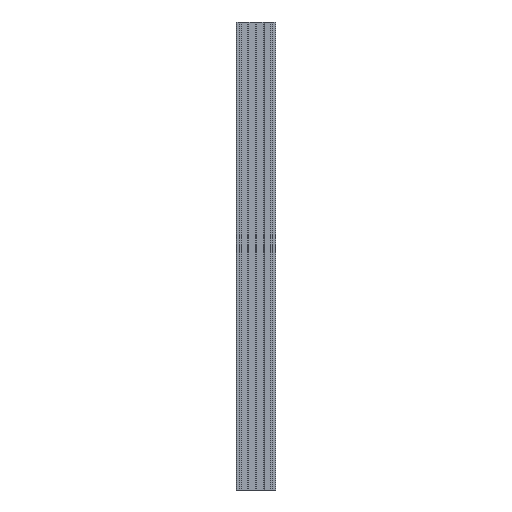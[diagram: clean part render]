
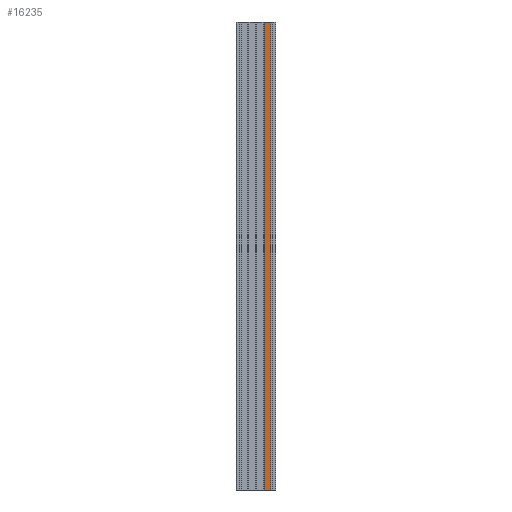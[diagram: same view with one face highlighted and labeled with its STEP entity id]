
A CAD part, front view. The second image highlights one B-rep face of the part: STEP entity #16235.
In plain terms, the highlighted planar face has unit normal (0, -1, 0).
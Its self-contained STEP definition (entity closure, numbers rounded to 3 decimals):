
#373 = FACE_OUTER_BOUND ( 'NONE', #12754, .T. ) ;
#1902 = CARTESIAN_POINT ( 'NONE',  ( 95.15, -32.5, -3000. ) ) ;
#1903 = CARTESIAN_POINT ( 'NONE',  ( 54.85, -32.5, -3000. ) ) ;
#1904 = DIRECTION ( 'NONE',  ( 0., 0., 1. ) ) ;
#1906 = CARTESIAN_POINT ( 'NONE',  ( 54.85, -32.5, 0. ) ) ;
#1907 = DIRECTION ( 'NONE',  ( 1., 0., 0. ) ) ;
#1908 = CARTESIAN_POINT ( 'NONE',  ( 54.85, -32.5, -3000. ) ) ;
#1910 = DIRECTION ( 'NONE',  ( 0., 0., 1. ) ) ;
#1913 = DIRECTION ( 'NONE',  ( 1., 0., 0. ) ) ;
#3048 = AXIS2_PLACEMENT_3D ( 'NONE', #11799, #11811, #11812 ) ;
#5762 = VERTEX_POINT ( 'NONE', #16666 ) ;
#5764 = VERTEX_POINT ( 'NONE', #16668 ) ;
#5771 = VERTEX_POINT ( 'NONE', #16675 ) ;
#5773 = VERTEX_POINT ( 'NONE', #16677 ) ;
#7607 = VECTOR ( 'NONE', #1913, 1000. ) ;
#7609 = LINE ( 'NONE', #1908, #7611 ) ;
#7610 = LINE ( 'NONE', #1903, #7607 ) ;
#7611 = VECTOR ( 'NONE', #1910, 1000. ) ;
#7612 = VECTOR ( 'NONE', #1907, 1000. ) ;
#7615 = VECTOR ( 'NONE', #1904, 1000. ) ;
#7616 = LINE ( 'NONE', #1906, #7612 ) ;
#7620 = LINE ( 'NONE', #1902, #7615 ) ;
#10365 = ORIENTED_EDGE ( 'NONE', *, *, #14926, .F. ) ;
#10366 = ORIENTED_EDGE ( 'NONE', *, *, #14927, .F. ) ;
#10367 = ORIENTED_EDGE ( 'NONE', *, *, #14929, .T. ) ;
#10368 = ORIENTED_EDGE ( 'NONE', *, *, #14924, .T. ) ;
#11799 = CARTESIAN_POINT ( 'NONE',  ( 54.85, -32.5, -3000. ) ) ;
#11807 = PLANE ( 'NONE',  #3048 ) ;
#11811 = DIRECTION ( 'NONE',  ( 0., -1., 0. ) ) ;
#11812 = DIRECTION ( 'NONE',  ( 0., 0., -1. ) ) ;
#12754 = EDGE_LOOP ( 'NONE', ( #10365, #10366, #10367, #10368 ) ) ;
#14924 = EDGE_CURVE ( 'NONE', #5764, #5773, #7620, .T. ) ;
#14926 = EDGE_CURVE ( 'NONE', #5771, #5773, #7616, .T. ) ;
#14927 = EDGE_CURVE ( 'NONE', #5762, #5771, #7609, .T. ) ;
#14929 = EDGE_CURVE ( 'NONE', #5762, #5764, #7610, .T. ) ;
#16235 = ADVANCED_FACE ( 'NONE', ( #373 ), #11807, .T. ) ;
#16666 = CARTESIAN_POINT ( 'NONE',  ( 54.85, -32.5, -3000. ) ) ;
#16668 = CARTESIAN_POINT ( 'NONE',  ( 95.15, -32.5, -3000. ) ) ;
#16675 = CARTESIAN_POINT ( 'NONE',  ( 54.85, -32.5, 0. ) ) ;
#16677 = CARTESIAN_POINT ( 'NONE',  ( 95.15, -32.5, 0. ) ) ;
